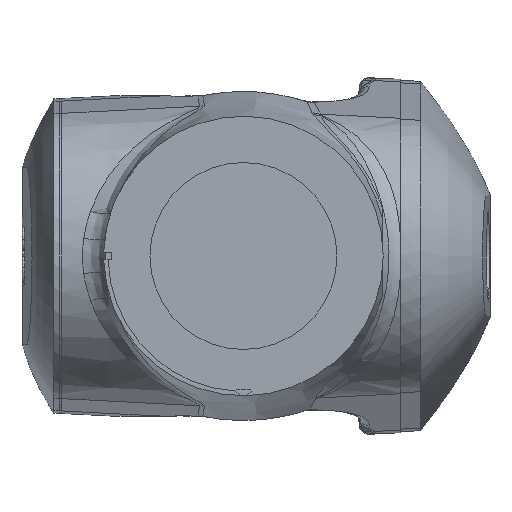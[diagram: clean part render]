
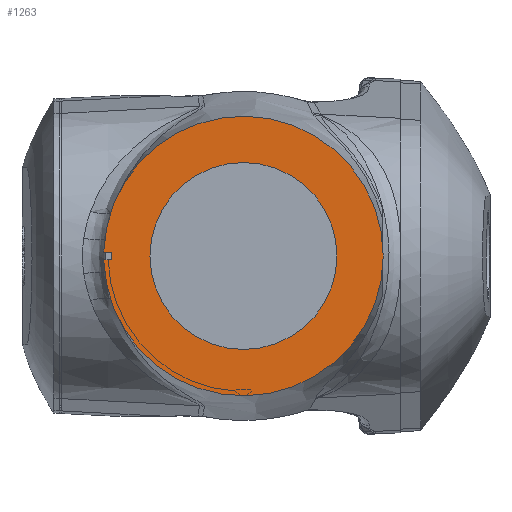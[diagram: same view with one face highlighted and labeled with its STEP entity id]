
A CAD part, left-side view. The second image highlights one B-rep face of the part: STEP entity #1263.
In plain terms, the highlighted planar face has unit normal (-1, 0, 0).
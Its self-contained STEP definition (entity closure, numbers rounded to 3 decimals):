
#361 = VECTOR ( 'NONE', #39363, 1000. ) ;
#1035 = ORIENTED_EDGE ( 'NONE', *, *, #38329, .T. ) ;
#1263 = ADVANCED_FACE ( 'NONE', ( #2672, #35391 ), #38750, .T. ) ;
#2091 = DIRECTION ( 'NONE',  ( 0., -1., 0. ) ) ;
#2672 = FACE_BOUND ( 'NONE', #34923, .T. ) ;
#4113 = LINE ( 'NONE', #33238, #361 ) ;
#6749 = DIRECTION ( 'NONE',  ( -1., 0., 0. ) ) ;
#9636 = CARTESIAN_POINT ( 'NONE',  ( 533.002, 0., 2525. ) ) ;
#10016 = ORIENTED_EDGE ( 'NONE', *, *, #12549, .T. ) ;
#10976 = DIRECTION ( 'NONE',  ( -1., 0., 0. ) ) ;
#11350 = AXIS2_PLACEMENT_3D ( 'NONE', #12668, #6749, #16942 ) ;
#12005 = LINE ( 'NONE', #19037, #26296 ) ;
#12549 = EDGE_CURVE ( 'NONE', #31255, #23007, #12005, .T. ) ;
#12668 = CARTESIAN_POINT ( 'NONE',  ( 533.002, 0., 2525. ) ) ;
#14547 = VERTEX_POINT ( 'NONE', #27629 ) ;
#14753 = EDGE_CURVE ( 'NONE', #14547, #31255, #15294, .T. ) ;
#15294 = CIRCLE ( 'NONE', #38372, 142. ) ;
#16883 = AXIS2_PLACEMENT_3D ( 'NONE', #9636, #22409, #35590 ) ;
#16942 = DIRECTION ( 'NONE',  ( 0., -1., 0. ) ) ;
#19037 = CARTESIAN_POINT ( 'NONE',  ( 533.002, 0., 2529. ) ) ;
#20180 = CARTESIAN_POINT ( 'NONE',  ( 533.002, 134., 2521. ) ) ;
#20455 = EDGE_CURVE ( 'NONE', #25410, #25410, #23595, .T. ) ;
#21568 = ORIENTED_EDGE ( 'NONE', *, *, #14753, .T. ) ;
#21819 = LINE ( 'NONE', #24018, #33868 ) ;
#21989 = CARTESIAN_POINT ( 'NONE',  ( 533.002, -95., 2525. ) ) ;
#22409 = DIRECTION ( 'NONE',  ( -1., 0., 0. ) ) ;
#23007 = VERTEX_POINT ( 'NONE', #33360 ) ;
#23595 = CIRCLE ( 'NONE', #11350, 95. ) ;
#24018 = CARTESIAN_POINT ( 'NONE',  ( 533.002, 134., 2525. ) ) ;
#25410 = VERTEX_POINT ( 'NONE', #21989 ) ;
#26296 = VECTOR ( 'NONE', #2091, 1000. ) ;
#27629 = CARTESIAN_POINT ( 'NONE',  ( 533.002, 141.944, 2521. ) ) ;
#30226 = CARTESIAN_POINT ( 'NONE',  ( 533.002, 141.944, 2529. ) ) ;
#31255 = VERTEX_POINT ( 'NONE', #30226 ) ;
#33238 = CARTESIAN_POINT ( 'NONE',  ( 533.002, 0., 2521. ) ) ;
#33360 = CARTESIAN_POINT ( 'NONE',  ( 533.002, 134., 2529. ) ) ;
#33868 = VECTOR ( 'NONE', #41095, 1000. ) ;
#33962 = DIRECTION ( 'NONE',  ( 0., -1., 0. ) ) ;
#34923 = EDGE_LOOP ( 'NONE', ( #37641 ) ) ;
#35391 = FACE_OUTER_BOUND ( 'NONE', #40052, .T. ) ;
#35455 = VERTEX_POINT ( 'NONE', #20180 ) ;
#35590 = DIRECTION ( 'NONE',  ( 0., -1., 0. ) ) ;
#36462 = ORIENTED_EDGE ( 'NONE', *, *, #41752, .F. ) ;
#37641 = ORIENTED_EDGE ( 'NONE', *, *, #20455, .F. ) ;
#38329 = EDGE_CURVE ( 'NONE', #35455, #14547, #4113, .T. ) ;
#38372 = AXIS2_PLACEMENT_3D ( 'NONE', #39883, #10976, #33962 ) ;
#38750 = PLANE ( 'NONE',  #16883 ) ;
#39363 = DIRECTION ( 'NONE',  ( 0., 1., 0. ) ) ;
#39883 = CARTESIAN_POINT ( 'NONE',  ( 533.002, 0., 2525. ) ) ;
#40052 = EDGE_LOOP ( 'NONE', ( #36462, #1035, #21568, #10016 ) ) ;
#41095 = DIRECTION ( 'NONE',  ( 0., 0., 1. ) ) ;
#41752 = EDGE_CURVE ( 'NONE', #35455, #23007, #21819, .T. ) ;
